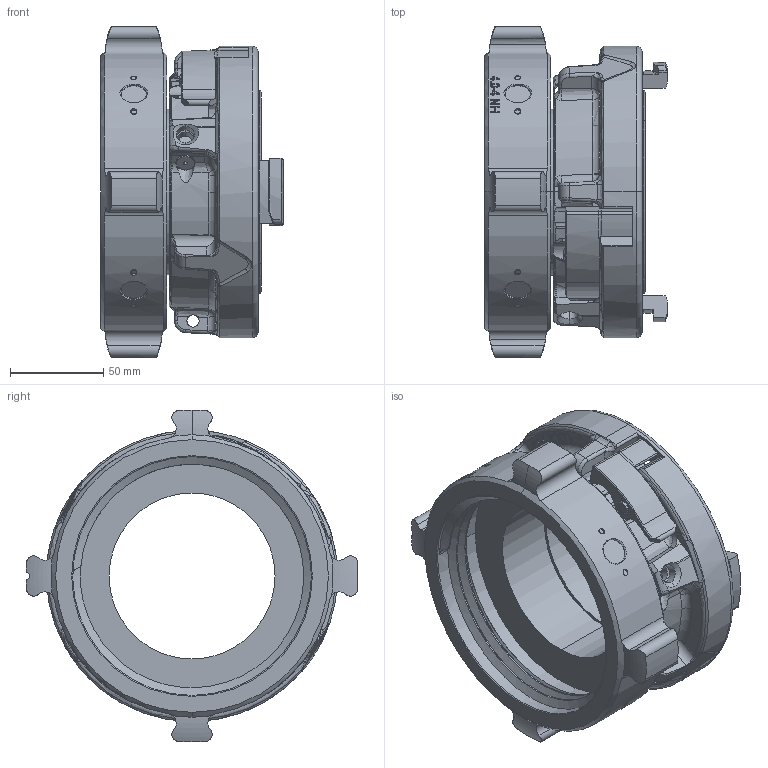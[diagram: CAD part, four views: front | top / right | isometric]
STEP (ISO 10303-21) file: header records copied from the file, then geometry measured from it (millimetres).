
FILE_DESCRIPTION (( 'STEP AP203' ), '1' );
FILE_NAME ('AA1SP-NP.STEP', '2020-06-18T20:40:02', ( 'Windows User' ), ( '' ), 'SwSTEP 2.0', 'SolidWorks 2019', '' );
FILE_SCHEMA (( 'CONFIG_CONTROL_DESIGN' ));
Products named in the file (1): AA1SP-NP
Bounding box: 97.97 x 177.75 x 177.8 mm (x, y, z)
Surface area: 141942.6 mm2 (no closed solid volume)
Topology: 0 solids, 12 shells, 852 faces, 2774 edges, 1858 vertices
Faces by surface type: bspline 271, plane 236, cylinder 205, cone 73, torus 67
Entity records: 47323 total; most frequent: CARTESIAN_POINT 26482, ORIENTED_EDGE 4697, DIRECTION 3282, EDGE_CURVE 2761, VERTEX_POINT 1858, AXIS2_PLACEMENT_3D 1199, B_SPLINE_CURVE_WITH_KNOTS 1176, EDGE_LOOP 926
